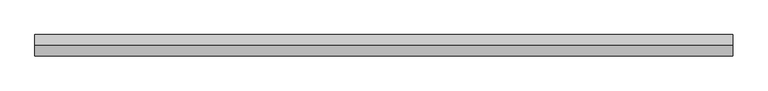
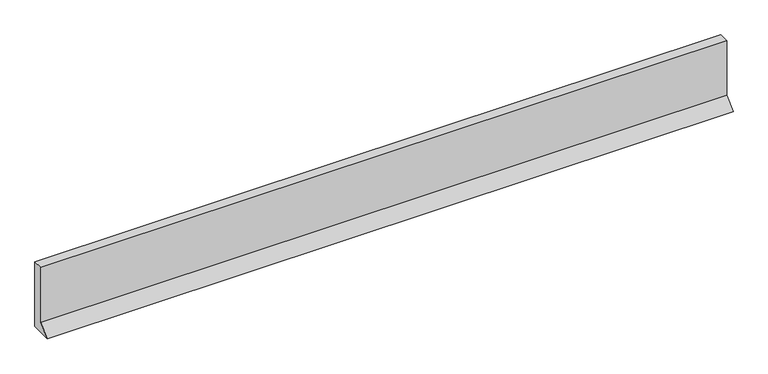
"""IFC4 building model written with IfcOpenShell, lengths in millimetres: plate geometry, ATELIERS 3S_EPURE CDB 200_HORIZONTAL : AZURO."""

from ifc_helpers import new_model, si_unit, frame, origin, place, context, project, spatial, polyline, outline, extrude, source, transform, mapped, element, save


def plate_2f84a2c1(model_context):
    return source(origin(), model_context, "Body", "SweptSolid", [
        extrude(outline(polyline([(-30.0201339, 31.7071152), (-30.0201339, 200.0), (0.0, 200.0), (0.0, 0.0), (-61.727249, 0.0), (-30.0201339, 31.7071152)])), frame((-1000.0, 0.0, 0.0), z_axis=(1.0, 0.0, 0.0), x_axis=(0.0, 1.0, 0.0)), (0.0, 0.0, 1.0), 2000.0),
    ])


if __name__ == "__main__":
    model = new_model("IFC4")
    model_context = context("Model", 3, world=origin())
    ifc_project = project(units=[si_unit("LENGTHUNIT", "METRE", prefix="MILLI")], contexts=[model_context])
    site = spatial("IfcSite", under=ifc_project)
    building = spatial("IfcBuilding", under=site)
    placement = place(None, origin())
    plate_shape = plate_2f84a2c1(model_context)
    element("IfcPlate", 1, ObjectType="ATELIERS 3S_EPURE CDB 200_HORIZONTAL : AZURO", at=placement, inside=building, context=model_context, shape_type="MappedRepresentation", body=[
        mapped(plate_shape, transform((0.0, 0.0, 0.0), x_axis=(1.0, 0.0, 0.0), y_axis=(0.0, 1.0, 0.0), z_axis=(0.0, 0.0, 1.0))),
    ])
    save(model, "model.ifc")
